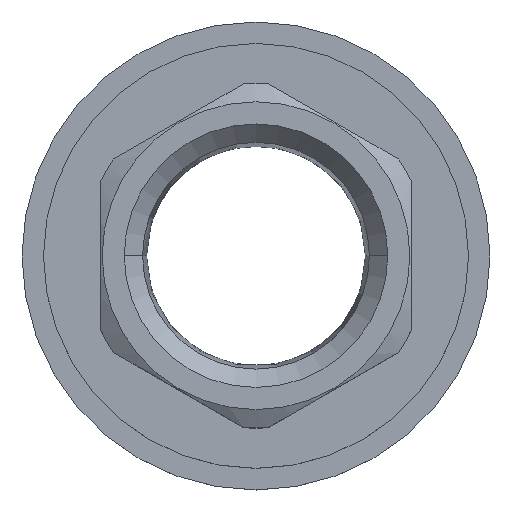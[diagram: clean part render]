
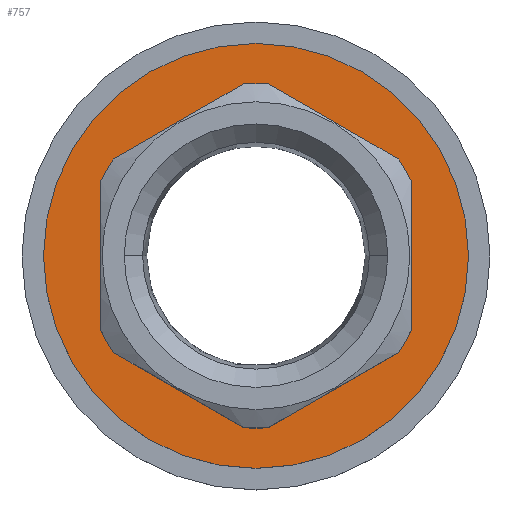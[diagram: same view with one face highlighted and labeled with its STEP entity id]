
A CAD part, top view. The second image highlights one B-rep face of the part: STEP entity #757.
In plain terms, the highlighted planar face has unit normal (0, 0, 1) as drawn and (1, 0, 0) by its records, which use the part's own axes.
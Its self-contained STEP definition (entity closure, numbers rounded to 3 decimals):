
#21 = VERTEX_POINT ( 'NONE', #760 ) ;
#39 = EDGE_CURVE ( 'NONE', #1556, #1479, #874, .T. ) ;
#44 = DIRECTION ( 'NONE',  ( -1., 0., 0. ) ) ;
#47 = CARTESIAN_POINT ( 'NONE',  ( 14.7, -7.794, -13.5 ) ) ;
#50 = CARTESIAN_POINT ( 'NONE',  ( 14.7, -7.794, 13.5 ) ) ;
#60 = VECTOR ( 'NONE', #1142, 1000. ) ;
#83 = CIRCLE ( 'NONE', #669, 15. ) ;
#95 = CARTESIAN_POINT ( 'NONE',  ( 14.7, 7.794, -13.5 ) ) ;
#106 = CARTESIAN_POINT ( 'NONE',  ( 14.7, 8.422, 12.412 ) ) ;
#124 = EDGE_CURVE ( 'NONE', #810, #220, #1323, .T. ) ;
#147 = CARTESIAN_POINT ( 'NONE',  ( 14.7, 14.961, 1.088 ) ) ;
#157 = EDGE_CURVE ( 'NONE', #363, #1590, #470, .T. ) ;
#163 = AXIS2_PLACEMENT_3D ( 'NONE', #1778, #419, #873 ) ;
#164 = AXIS2_PLACEMENT_3D ( 'NONE', #1941, #770, #1068 ) ;
#182 = EDGE_LOOP ( 'NONE', ( #831, #1118 ) ) ;
#191 = AXIS2_PLACEMENT_3D ( 'NONE', #1261, #369, #1562 ) ;
#210 = CARTESIAN_POINT ( 'NONE',  ( 14.7, 8.422, -12.412 ) ) ;
#220 = VERTEX_POINT ( 'NONE', #964 ) ;
#275 = ORIENTED_EDGE ( 'NONE', *, *, #1767, .T. ) ;
#281 = DIRECTION ( 'NONE',  ( 0., 0., 1. ) ) ;
#293 = CARTESIAN_POINT ( 'NONE',  ( 14.7, 7.794, 13.5 ) ) ;
#302 = DIRECTION ( 'NONE',  ( 0., -1., 0. ) ) ;
#323 = EDGE_CURVE ( 'NONE', #1590, #363, #1443, .T. ) ;
#343 = CARTESIAN_POINT ( 'NONE',  ( 14.7, 0., 0. ) ) ;
#359 = DIRECTION ( 'NONE',  ( 0., -0.5, 0.866 ) ) ;
#363 = VERTEX_POINT ( 'NONE', #783 ) ;
#369 = DIRECTION ( 'NONE',  ( -1., 0., 0. ) ) ;
#375 = EDGE_CURVE ( 'NONE', #1556, #21, #1208, .T. ) ;
#381 = ORIENTED_EDGE ( 'NONE', *, *, #375, .F. ) ;
#417 = CARTESIAN_POINT ( 'NONE',  ( 14.7, 0., 0. ) ) ;
#419 = DIRECTION ( 'NONE',  ( -1., 0., 0. ) ) ;
#436 = LINE ( 'NONE', #293, #1524 ) ;
#439 = EDGE_CURVE ( 'NONE', #810, #1479, #1700, .T. ) ;
#451 = DIRECTION ( 'NONE',  ( 0., 0.5, -0.866 ) ) ;
#452 = EDGE_CURVE ( 'NONE', #471, #1370, #940, .T. ) ;
#454 = CARTESIAN_POINT ( 'NONE',  ( 14.7, 6.538, -13.5 ) ) ;
#462 = AXIS2_PLACEMENT_3D ( 'NONE', #995, #1333, #980 ) ;
#470 = CIRCLE ( 'NONE', #1783, 18.5 ) ;
#471 = VERTEX_POINT ( 'NONE', #210 ) ;
#475 = VECTOR ( 'NONE', #359, 1000. ) ;
#516 = DIRECTION ( 'NONE',  ( -1., 0., 0. ) ) ;
#576 = VECTOR ( 'NONE', #666, 1000. ) ;
#595 = CARTESIAN_POINT ( 'NONE',  ( 14.7, -6.538, -13.5 ) ) ;
#601 = AXIS2_PLACEMENT_3D ( 'NONE', #1759, #1781, #281 ) ;
#639 = EDGE_CURVE ( 'NONE', #1498, #21, #843, .T. ) ;
#666 = DIRECTION ( 'NONE',  ( 0., 0.5, 0.866 ) ) ;
#669 = AXIS2_PLACEMENT_3D ( 'NONE', #417, #1139, #678 ) ;
#678 = DIRECTION ( 'NONE',  ( 0., 0., 1. ) ) ;
#757 = ADVANCED_FACE ( 'NONE', ( #1076, #1674 ), #1203, .F. ) ;
#760 = CARTESIAN_POINT ( 'NONE',  ( 14.7, -8.422, -12.412 ) ) ;
#770 = DIRECTION ( 'NONE',  ( -1., 0., 0. ) ) ;
#776 = VERTEX_POINT ( 'NONE', #147 ) ;
#777 = DIRECTION ( 'NONE',  ( 0., 0., 1. ) ) ;
#783 = CARTESIAN_POINT ( 'NONE',  ( 14.7, 0., -18.5 ) ) ;
#800 = ORIENTED_EDGE ( 'NONE', *, *, #639, .T. ) ;
#803 = EDGE_CURVE ( 'NONE', #776, #1849, #1551, .T. ) ;
#810 = VERTEX_POINT ( 'NONE', #947 ) ;
#816 = EDGE_LOOP ( 'NONE', ( #1448, #1798, #1647, #1411, #275, #1264, #1116, #1763, #1569, #1461, #800, #381 ) ) ;
#831 = ORIENTED_EDGE ( 'NONE', *, *, #323, .F. ) ;
#843 = CIRCLE ( 'NONE', #163, 15. ) ;
#873 = DIRECTION ( 'NONE',  ( 0., 0., 1. ) ) ;
#874 = CIRCLE ( 'NONE', #1937, 15. ) ;
#901 = EDGE_CURVE ( 'NONE', #1498, #1079, #1400, .T. ) ;
#923 = EDGE_CURVE ( 'NONE', #776, #1370, #1361, .T. ) ;
#924 = CARTESIAN_POINT ( 'NONE',  ( 14.7, 0., 0. ) ) ;
#940 = LINE ( 'NONE', #95, #576 ) ;
#942 = VERTEX_POINT ( 'NONE', #1299 ) ;
#947 = CARTESIAN_POINT ( 'NONE',  ( 14.7, -8.422, 12.412 ) ) ;
#954 = DIRECTION ( 'NONE',  ( 0., 0., 1. ) ) ;
#964 = CARTESIAN_POINT ( 'NONE',  ( 14.7, -6.538, 13.5 ) ) ;
#980 = DIRECTION ( 'NONE',  ( 0., 0., 1. ) ) ;
#991 = EDGE_CURVE ( 'NONE', #471, #1079, #1774, .T. ) ;
#995 = CARTESIAN_POINT ( 'NONE',  ( 14.7, 0., 0. ) ) ;
#1036 = CARTESIAN_POINT ( 'NONE',  ( 14.7, -14.961, -1.088 ) ) ;
#1068 = DIRECTION ( 'NONE',  ( 0., 0., 1. ) ) ;
#1076 = FACE_BOUND ( 'NONE', #816, .T. ) ;
#1079 = VERTEX_POINT ( 'NONE', #454 ) ;
#1088 = CARTESIAN_POINT ( 'NONE',  ( 14.7, -15.588, 0. ) ) ;
#1116 = ORIENTED_EDGE ( 'NONE', *, *, #923, .T. ) ;
#1118 = ORIENTED_EDGE ( 'NONE', *, *, #157, .F. ) ;
#1139 = DIRECTION ( 'NONE',  ( -1., 0., 0. ) ) ;
#1142 = DIRECTION ( 'NONE',  ( 0., -0.5, -0.866 ) ) ;
#1185 = EDGE_CURVE ( 'NONE', #942, #220, #436, .T. ) ;
#1203 = PLANE ( 'NONE',  #164 ) ;
#1208 = LINE ( 'NONE', #1088, #1870 ) ;
#1251 = DIRECTION ( 'NONE',  ( 0., 1., 0. ) ) ;
#1257 = DIRECTION ( 'NONE',  ( 0., 0., 1. ) ) ;
#1261 = CARTESIAN_POINT ( 'NONE',  ( 14.7, 0., 0. ) ) ;
#1264 = ORIENTED_EDGE ( 'NONE', *, *, #803, .F. ) ;
#1299 = CARTESIAN_POINT ( 'NONE',  ( 14.7, 6.538, 13.5 ) ) ;
#1323 = CIRCLE ( 'NONE', #1808, 15. ) ;
#1333 = DIRECTION ( 'NONE',  ( -1., 0., 0. ) ) ;
#1339 = CARTESIAN_POINT ( 'NONE',  ( 14.7, -14.961, 1.088 ) ) ;
#1361 = CIRCLE ( 'NONE', #191, 15. ) ;
#1370 = VERTEX_POINT ( 'NONE', #1454 ) ;
#1376 = CARTESIAN_POINT ( 'NONE',  ( 14.7, 0., 18.5 ) ) ;
#1400 = LINE ( 'NONE', #47, #1659 ) ;
#1408 = CARTESIAN_POINT ( 'NONE',  ( 14.7, 15.588, 0. ) ) ;
#1411 = ORIENTED_EDGE ( 'NONE', *, *, #1185, .F. ) ;
#1443 = CIRCLE ( 'NONE', #601, 18.5 ) ;
#1448 = ORIENTED_EDGE ( 'NONE', *, *, #39, .T. ) ;
#1454 = CARTESIAN_POINT ( 'NONE',  ( 14.7, 14.961, -1.088 ) ) ;
#1461 = ORIENTED_EDGE ( 'NONE', *, *, #901, .F. ) ;
#1479 = VERTEX_POINT ( 'NONE', #1339 ) ;
#1498 = VERTEX_POINT ( 'NONE', #595 ) ;
#1524 = VECTOR ( 'NONE', #302, 1000. ) ;
#1551 = LINE ( 'NONE', #1408, #475 ) ;
#1556 = VERTEX_POINT ( 'NONE', #1036 ) ;
#1562 = DIRECTION ( 'NONE',  ( 0., 0., 1. ) ) ;
#1569 = ORIENTED_EDGE ( 'NONE', *, *, #991, .T. ) ;
#1590 = VERTEX_POINT ( 'NONE', #1376 ) ;
#1647 = ORIENTED_EDGE ( 'NONE', *, *, #124, .T. ) ;
#1659 = VECTOR ( 'NONE', #1251, 1000. ) ;
#1674 = FACE_OUTER_BOUND ( 'NONE', #182, .T. ) ;
#1700 = LINE ( 'NONE', #50, #60 ) ;
#1704 = CARTESIAN_POINT ( 'NONE',  ( 14.7, 0., 0. ) ) ;
#1759 = CARTESIAN_POINT ( 'NONE',  ( 14.7, 0., 0. ) ) ;
#1763 = ORIENTED_EDGE ( 'NONE', *, *, #452, .F. ) ;
#1767 = EDGE_CURVE ( 'NONE', #942, #1849, #83, .T. ) ;
#1774 = CIRCLE ( 'NONE', #462, 15. ) ;
#1778 = CARTESIAN_POINT ( 'NONE',  ( 14.7, 0., 0. ) ) ;
#1781 = DIRECTION ( 'NONE',  ( -1., 0., 0. ) ) ;
#1783 = AXIS2_PLACEMENT_3D ( 'NONE', #924, #516, #954 ) ;
#1798 = ORIENTED_EDGE ( 'NONE', *, *, #439, .F. ) ;
#1808 = AXIS2_PLACEMENT_3D ( 'NONE', #343, #1834, #1257 ) ;
#1834 = DIRECTION ( 'NONE',  ( -1., 0., 0. ) ) ;
#1849 = VERTEX_POINT ( 'NONE', #106 ) ;
#1870 = VECTOR ( 'NONE', #451, 1000. ) ;
#1937 = AXIS2_PLACEMENT_3D ( 'NONE', #1704, #44, #777 ) ;
#1941 = CARTESIAN_POINT ( 'NONE',  ( 14.7, 18.5, 0. ) ) ;
